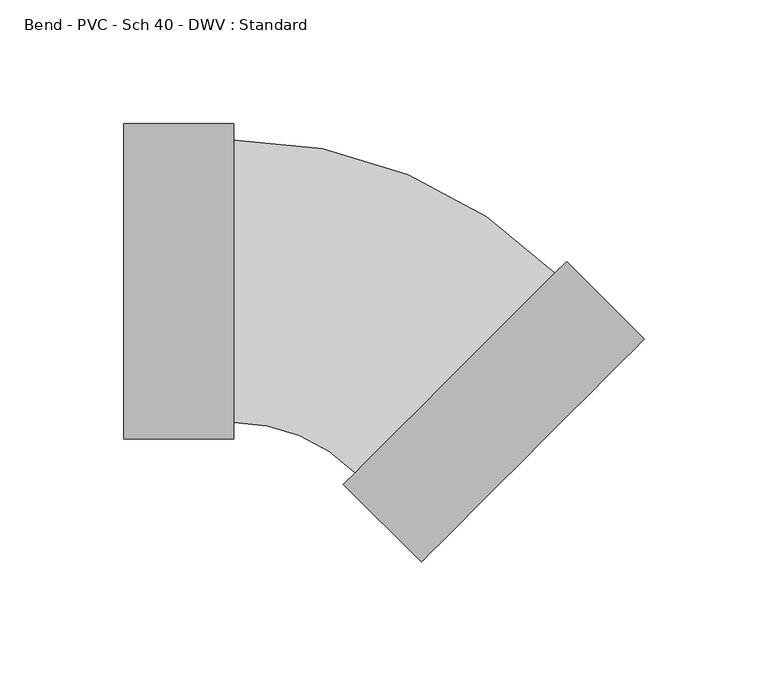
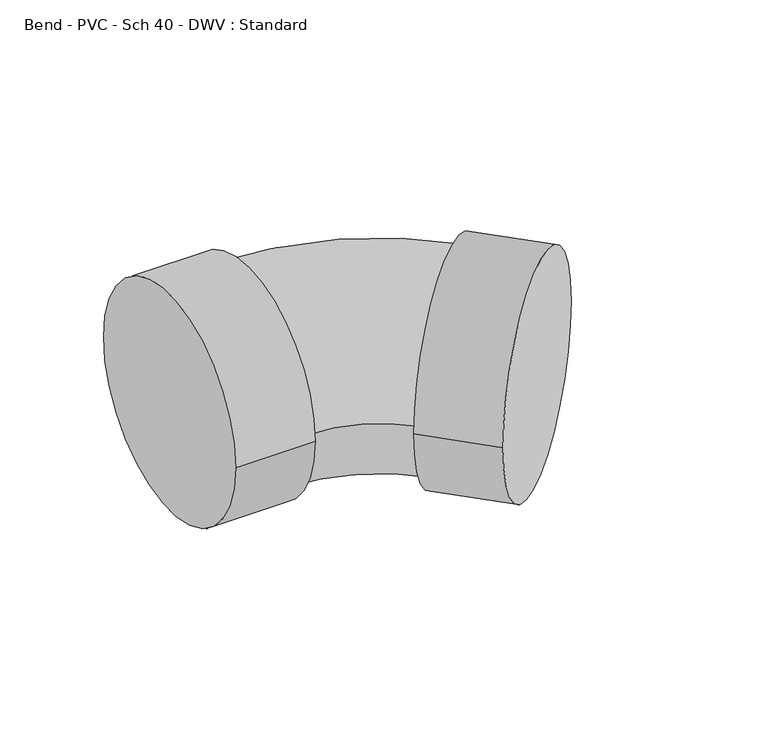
"""IFC4 building model written with IfcOpenShell, lengths in millimetres: pipe fitting geometry, Bend - PVC - Sch 40 - DWV : Standard."""

from ifc_helpers import new_model, si_unit, point, frame, origin, place, context, project, spatial, circle_curve, ellipse_curve, trimmed, source, transform, mapped, element, save
from ifc_brep_helpers import plane_surface, cylinder_surface, revolved_surface, advanced_brep


def bend_pvc_sch_40_dwv_standard_17534dfd(model_context):
    return source(origin(), model_context, "Body", "AdvancedBrep", [
        advanced_brep(
        [(-96.8502, 63.754, 0.0), (-96.8502, -63.754, 0.0), (-52.4002, 63.754, 0.0), (-52.4002, -63.754, 0.0), (-52.4002, 57.15, 0.0), (-52.4002, -57.15, 0.0), (-3.362818, -77.463507, 0.0), (77.4638714, 3.3544136, 0.0), (82.1338579, 8.0238934, 0.0), (-8.0328045, -82.1329868, 0.0), (113.5630492, -23.408708, 0.0), (23.3963868, -113.5655883, 0.0)],
        [
            (0, 1, circle_curve(frame((-96.8502, 0.0, 0.0), z_axis=(-1.0, 0.0, 0.0), x_axis=(0.0, -1.0, 0.0)), 63.754)),
            (1, 0, circle_curve(frame((-96.8502, 0.0, 0.0), z_axis=(-1.0, 0.0, 0.0), x_axis=(0.0, -1.0, 0.0)), 63.754)),
            (2, 3, circle_curve(frame((-52.4002, 0.0, 0.0), z_axis=(1.0, 0.0, 0.0), x_axis=(0.0, -1.0, 0.0)), 63.754)),
            (3, 2, circle_curve(frame((-52.4002, 0.0, 0.0), z_axis=(1.0, 0.0, 0.0), x_axis=(0.0, -1.0, 0.0)), 63.754)),
            (4, 5, circle_curve(frame((-52.4002, 0.0, 0.0), z_axis=(-1.0, 0.0, 0.0), x_axis=(0.0, -1.0, 0.0)), 57.15)),
            (5, 4, circle_curve(frame((-52.4002, 0.0, 0.0), z_axis=(-1.0, 0.0, 0.0), x_axis=(0.0, -1.0, 0.0)), 57.15)),
            (1, 3),
            (2, 0),
            (6, 7, circle_curve(frame((37.0505267, -37.0545467, 0.0), z_axis=(-0.7070684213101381, 0.7071451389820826, 0.0), x_axis=(-0.7071451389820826, -0.7070684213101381, 0.0)), 57.15)),
            (7, 4, circle_curve(frame((-52.4002, -126.495569, 0.0), z_axis=(0.0, 0.0, 1.0), x_axis=(0.0, 1.0, 0.0)), 183.645569)),
            (5, 6, circle_curve(frame((-52.4002, -126.495569, 0.0), z_axis=(0.0, 0.0, -1.0), x_axis=(0.0, 1.0, 0.0)), 69.345569)),
            (7, 6, circle_curve(frame((37.0505267, -37.0545467, 0.0), z_axis=(-0.7070684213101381, 0.7071451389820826, 0.0), x_axis=(-0.7071451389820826, -0.7070684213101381, 0.0)), 57.15)),
            (8, 9, circle_curve(frame((37.0505267, -37.0545467, 0.0), z_axis=(-0.7070684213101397, 0.7071451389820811, 0.0), x_axis=(-0.7071451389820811, -0.7070684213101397, 0.0)), 63.754)),
            (9, 8, circle_curve(frame((37.0505267, -37.0545467, 0.0), z_axis=(-0.7070684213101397, 0.7071451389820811, 0.0), x_axis=(-0.7071451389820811, -0.7070684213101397, 0.0)), 63.754)),
            (10, 11, circle_curve(frame((68.479718, -68.4871481, 0.0), z_axis=(0.7070684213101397, -0.7071451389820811, 0.0), x_axis=(-0.7071451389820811, -0.7070684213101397, 0.0)), 63.754)),
            (11, 10, circle_curve(frame((68.479718, -68.4871481, 0.0), z_axis=(0.7070684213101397, -0.7071451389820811, 0.0), x_axis=(-0.7071451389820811, -0.7070684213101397, 0.0)), 63.754)),
            (9, 11),
            (10, 8),
        ],
        [
            plane_surface(frame((-96.8502, 0.0, 0.0), z_axis=(-1.0, 0.0, 0.0), x_axis=(0.0, 0.0, 1.0))),
            plane_surface(frame((-52.4002, 0.0, 0.0), z_axis=(1.0, 0.0, 0.0), x_axis=(0.0, 0.0, 1.0))),
            cylinder_surface(frame((-96.8502, 0.0, 0.0), z_axis=(-1.0, 0.0, 0.0), x_axis=(0.0, -1.0, 0.0)), 63.754),
            revolved_surface(trimmed(ellipse_curve(frame((-52.4002, 0.0, 0.0), z_axis=(1.0, 0.0, 0.0), x_axis=(0.0, -1.0, 0.0)), 57.15, 57.15), [point((-52.4002, 57.15, 0.0))], [point((-52.4002, -57.15, 0.0))], True, "CARTESIAN"), (-52.4002, -126.495569, 0.0), (0.0, 0.0, 1.0)),
            revolved_surface(trimmed(ellipse_curve(frame((-52.4002, 0.0, 0.0), z_axis=(1.0, 0.0, 0.0), x_axis=(0.0, -1.0, 0.0)), 57.15, 57.15), [point((-52.4002, -57.15, 0.0))], [point((-52.4002, 57.15, 0.0))], True, "CARTESIAN"), (-52.4002, -126.495569, 0.0), (0.0, 0.0, 1.0)),
            plane_surface(frame((37.0505267, -37.0545467, 0.0), z_axis=(-0.7070684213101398, 0.7071451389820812, 0.0), x_axis=(0.0, 0.0, 1.0))),
            plane_surface(frame((68.479718, -68.4871481, 0.0), z_axis=(0.7070684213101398, -0.7071451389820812, 0.0), x_axis=(0.0, 0.0, 1.0))),
            cylinder_surface(frame((37.0505267, -37.0545467, 0.0), z_axis=(-0.7070684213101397, 0.7071451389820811, 0.0), x_axis=(-0.7071451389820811, -0.7070684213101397, 0.0)), 63.754),
        ],
        [
            (0, [[1, 2]]),
            (1, [[3, 4], [5, 6]]),
            (2, [[7, -3, 8, -2]]),
            (2, [[-8, -4, -7, -1]]),
            (3, [[9, 10, -6, 11]]),
            (4, [[-5, -10, 12, -11]]),
            (5, [[13, 14], [-12, -9]]),
            (6, [[15, 16]]),
            (7, [[17, -15, 18, -14]]),
            (7, [[-18, -16, -17, -13]]),
        ],
    ),
    ])


if __name__ == "__main__":
    model = new_model("IFC4")
    model_context = context("Model", 3, world=origin())
    ifc_project = project(units=[si_unit("LENGTHUNIT", "METRE", prefix="MILLI")], contexts=[model_context])
    site = spatial("IfcSite", under=ifc_project)
    building = spatial("IfcBuilding", under=site)
    placement = place(None, origin())
    bend_pvc_sch_40_dwv_standard_shape = bend_pvc_sch_40_dwv_standard_17534dfd(model_context)
    element("IfcPipeFitting", 1, ObjectType="Bend - PVC - Sch 40 - DWV : Standard", at=placement, inside=building, context=model_context, shape_type="MappedRepresentation", body=[
        mapped(bend_pvc_sch_40_dwv_standard_shape, transform((0.0, 0.0, 0.0), x_axis=(1.0, 0.0, 0.0), y_axis=(0.0, 1.0, 0.0), z_axis=(0.0, 0.0, 1.0))),
    ])
    save(model, "model.ifc")
